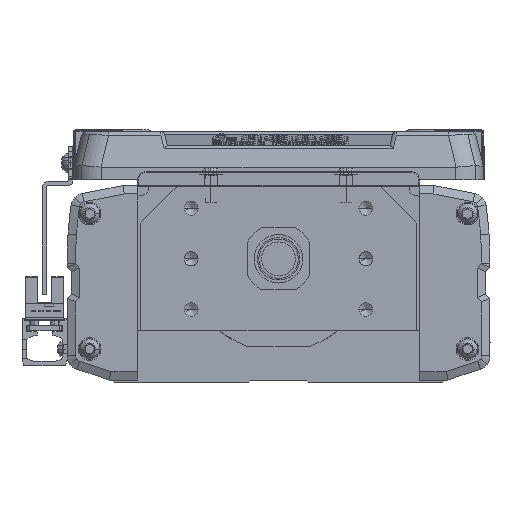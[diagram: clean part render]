
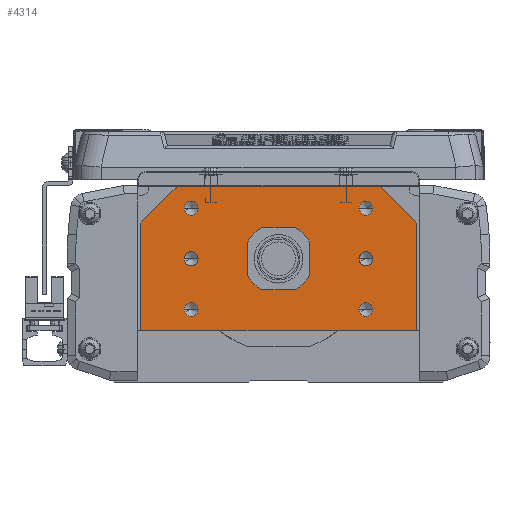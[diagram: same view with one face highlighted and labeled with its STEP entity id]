
A CAD part, left-side view. The second image highlights one B-rep face of the part: STEP entity #4314.
In plain terms, the highlighted planar face has unit normal (-1, 0, 0).
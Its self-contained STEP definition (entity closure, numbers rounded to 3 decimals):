
#4314=ADVANCED_FACE('',(#10788,#10789,#10790,#10791,#10792,#10793,#10794,#10795),#10796,.F.);
#10788=FACE_OUTER_BOUND('',#20342,.T.);
#10789=FACE_BOUND('',#20343,.T.);
#10790=FACE_BOUND('',#20344,.T.);
#10791=FACE_BOUND('',#20345,.T.);
#10792=FACE_BOUND('',#20346,.T.);
#10793=FACE_BOUND('',#20347,.T.);
#10794=FACE_BOUND('',#20348,.T.);
#10795=FACE_BOUND('',#20349,.T.);
#10796=PLANE('',#20350);
#20342=EDGE_LOOP('',(#33206,#33207,#33208,#33209,#33210,#33211,#33212,#33213));
#20343=EDGE_LOOP('',(#33214,#33215));
#20344=EDGE_LOOP('',(#33216,#33217));
#20345=EDGE_LOOP('',(#33218,#33219));
#20346=EDGE_LOOP('',(#33220,#33221));
#20347=EDGE_LOOP('',(#33222,#33223));
#20348=EDGE_LOOP('',(#33224,#33225));
#20349=EDGE_LOOP('',(#33226,#33227));
#20350=AXIS2_PLACEMENT_3D('',#33228,#33229,#33230);
#33206=ORIENTED_EDGE('',*,*,#56934,.F.);
#33207=ORIENTED_EDGE('',*,*,#57249,.F.);
#33208=ORIENTED_EDGE('',*,*,#57250,.F.);
#33209=ORIENTED_EDGE('',*,*,#54805,.F.);
#33210=ORIENTED_EDGE('',*,*,#57251,.F.);
#33211=ORIENTED_EDGE('',*,*,#57252,.F.);
#33212=ORIENTED_EDGE('',*,*,#54984,.F.);
#33213=ORIENTED_EDGE('',*,*,#56521,.F.);
#33214=ORIENTED_EDGE('',*,*,#57253,.T.);
#33215=ORIENTED_EDGE('',*,*,#57254,.T.);
#33216=ORIENTED_EDGE('',*,*,#57255,.T.);
#33217=ORIENTED_EDGE('',*,*,#55213,.T.);
#33218=ORIENTED_EDGE('',*,*,#57122,.T.);
#33219=ORIENTED_EDGE('',*,*,#57256,.T.);
#33220=ORIENTED_EDGE('',*,*,#57257,.T.);
#33221=ORIENTED_EDGE('',*,*,#57258,.T.);
#33222=ORIENTED_EDGE('',*,*,#57259,.T.);
#33223=ORIENTED_EDGE('',*,*,#57260,.T.);
#33224=ORIENTED_EDGE('',*,*,#57261,.T.);
#33225=ORIENTED_EDGE('',*,*,#57262,.T.);
#33226=ORIENTED_EDGE('',*,*,#57263,.F.);
#33227=ORIENTED_EDGE('',*,*,#57264,.F.);
#33228=CARTESIAN_POINT('',(0.,0.275,-2.548));
#33229=DIRECTION('',(1.0,0.,0.));
#33230=DIRECTION('',(0.,1.0,0.));
#54805=EDGE_CURVE('',#65102,#65104,#65105,.T.);
#54984=EDGE_CURVE('',#65422,#65423,#65424,.T.);
#55213=EDGE_CURVE('',#65843,#65841,#65844,.T.);
#56521=EDGE_CURVE('',#68160,#65422,#68163,.T.);
#56934=EDGE_CURVE('',#68855,#68160,#68856,.T.);
#57122=EDGE_CURVE('',#69161,#69164,#69166,.T.);
#57249=EDGE_CURVE('',#69378,#68855,#69379,.T.);
#57250=EDGE_CURVE('',#65104,#69378,#69380,.T.);
#57251=EDGE_CURVE('',#69381,#65102,#69382,.T.);
#57252=EDGE_CURVE('',#65423,#69381,#69383,.T.);
#57253=EDGE_CURVE('',#69384,#69385,#69386,.T.);
#57254=EDGE_CURVE('',#69385,#69384,#69387,.T.);
#57255=EDGE_CURVE('',#65841,#65843,#69388,.T.);
#57256=EDGE_CURVE('',#69164,#69161,#69389,.T.);
#57257=EDGE_CURVE('',#69390,#69391,#69392,.T.);
#57258=EDGE_CURVE('',#69391,#69390,#69393,.T.);
#57259=EDGE_CURVE('',#69394,#69395,#69396,.T.);
#57260=EDGE_CURVE('',#69395,#69394,#69397,.T.);
#57261=EDGE_CURVE('',#69398,#69399,#69400,.T.);
#57262=EDGE_CURVE('',#69399,#69398,#69401,.T.);
#57263=EDGE_CURVE('',#69402,#69403,#69404,.F.);
#57264=EDGE_CURVE('',#69403,#69402,#69405,.F.);
#65102=VERTEX_POINT('',#80038);
#65104=VERTEX_POINT('',#80041);
#65105=LINE('',#80042,#80043);
#65422=VERTEX_POINT('',#80504);
#65423=VERTEX_POINT('',#80505);
#65424=LINE('',#80506,#80507);
#65841=VERTEX_POINT('',#81073);
#65843=VERTEX_POINT('',#81076);
#65844=CIRCLE('',#81077,2.5);
#68160=VERTEX_POINT('',#84438);
#68163=LINE('',#84442,#84443);
#68855=VERTEX_POINT('',#85413);
#68856=LINE('',#85414,#85415);
#69161=VERTEX_POINT('',#85876);
#69164=VERTEX_POINT('',#85880);
#69166=CIRCLE('',#85883,2.5);
#69378=VERTEX_POINT('',#86180);
#69379=LINE('',#86181,#86182);
#69380=LINE('',#86183,#86184);
#69381=VERTEX_POINT('',#86185);
#69382=LINE('',#86186,#86187);
#69383=LINE('',#86188,#86189);
#69384=VERTEX_POINT('',#86190);
#69385=VERTEX_POINT('',#86191);
#69386=CIRCLE('',#86192,2.5);
#69387=CIRCLE('',#86193,2.5);
#69388=CIRCLE('',#86194,2.5);
#69389=CIRCLE('',#86195,2.5);
#69390=VERTEX_POINT('',#86196);
#69391=VERTEX_POINT('',#86197);
#69392=CIRCLE('',#86198,2.5);
#69393=CIRCLE('',#86199,2.5);
#69394=VERTEX_POINT('',#86200);
#69395=VERTEX_POINT('',#86201);
#69396=CIRCLE('',#86202,2.5);
#69397=CIRCLE('',#86203,2.5);
#69398=VERTEX_POINT('',#86204);
#69399=VERTEX_POINT('',#86205);
#69400=CIRCLE('',#86206,2.5);
#69401=CIRCLE('',#86207,2.5);
#69402=VERTEX_POINT('',#86208);
#69403=VERTEX_POINT('',#86209);
#69404=CIRCLE('',#86210,7.5);
#69405=CIRCLE('',#86211,7.5);
#80038=CARTESIAN_POINT('',(0.,-48.5,-25.5));
#80041=CARTESIAN_POINT('',(0.,48.5,-25.5));
#80042=CARTESIAN_POINT('',(0.,0.,-25.5));
#80043=VECTOR('',#101457,10.0);
#80504=CARTESIAN_POINT('',(0.,-36.,25.7));
#80505=CARTESIAN_POINT('',(0.,-49.,12.7));
#80506=CARTESIAN_POINT('',(0.,-37.243,24.457));
#80507=VECTOR('',#101701,10.0);
#81073=CARTESIAN_POINT('',(0.,-33.5,-18.));
#81076=CARTESIAN_POINT('',(0.,-28.5,-18.));
#81077=AXIS2_PLACEMENT_3D('',#102047,#102048,#102049);
#84438=CARTESIAN_POINT('',(0.,36.,25.7));
#84442=CARTESIAN_POINT('',(0.,34.5,25.7));
#84443=VECTOR('',#103939,10.0);
#85413=CARTESIAN_POINT('',(0.,49.,12.7));
#85414=CARTESIAN_POINT('',(0.,37.381,24.319));
#85415=VECTOR('',#104488,10.);
#85876=CARTESIAN_POINT('',(0.,33.5,18.));
#85880=CARTESIAN_POINT('',(0.,28.5,18.));
#85883=AXIS2_PLACEMENT_3D('',#104732,#104733,#104734);
#86180=CARTESIAN_POINT('',(0.,49.,-25.));
#86181=CARTESIAN_POINT('',(0.,49.,-25.));
#86182=VECTOR('',#104891,10.0);
#86183=CARTESIAN_POINT('',(0.,48.5,-25.5));
#86184=VECTOR('',#104892,10.0);
#86185=CARTESIAN_POINT('',(0.,-49.,-25.));
#86186=CARTESIAN_POINT('',(0.,-49.,-25.));
#86187=VECTOR('',#104893,10.0);
#86188=CARTESIAN_POINT('',(0.,-49.,-14.));
#86189=VECTOR('',#104894,10.0);
#86190=CARTESIAN_POINT('',(0.,33.5,-18.));
#86191=CARTESIAN_POINT('',(0.,28.5,-18.));
#86192=AXIS2_PLACEMENT_3D('',#104895,#104896,#104897);
#86193=AXIS2_PLACEMENT_3D('',#104898,#104899,#104900);
#86194=AXIS2_PLACEMENT_3D('',#104901,#104902,#104903);
#86195=AXIS2_PLACEMENT_3D('',#104904,#104905,#104906);
#86196=CARTESIAN_POINT('',(0.,-33.5,18.));
#86197=CARTESIAN_POINT('',(0.,-28.5,18.));
#86198=AXIS2_PLACEMENT_3D('',#104907,#104908,#104909);
#86199=AXIS2_PLACEMENT_3D('',#104910,#104911,#104912);
#86200=CARTESIAN_POINT('',(0.,33.5,0.));
#86201=CARTESIAN_POINT('',(0.,28.5,0.));
#86202=AXIS2_PLACEMENT_3D('',#104913,#104914,#104915);
#86203=AXIS2_PLACEMENT_3D('',#104916,#104917,#104918);
#86204=CARTESIAN_POINT('',(0.,-33.5,0.));
#86205=CARTESIAN_POINT('',(0.,-28.5,0.));
#86206=AXIS2_PLACEMENT_3D('',#104919,#104920,#104921);
#86207=AXIS2_PLACEMENT_3D('',#104922,#104923,#104924);
#86208=CARTESIAN_POINT('',(0.,7.5,0.));
#86209=CARTESIAN_POINT('',(0.,-7.5,0.));
#86210=AXIS2_PLACEMENT_3D('',#104925,#104926,#104927);
#86211=AXIS2_PLACEMENT_3D('',#104928,#104929,#104930);
#101457=DIRECTION('',(0.,1.0,0.));
#101701=DIRECTION('',(0.,-0.707,-0.707));
#102047=CARTESIAN_POINT('',(0.,-31.,-18.));
#102048=DIRECTION('',(1.0,0.,0.));
#102049=DIRECTION('',(0.,-1.0,0.));
#103939=DIRECTION('',(0.,-1.0,0.));
#104488=DIRECTION('',(0.,-0.707,0.707));
#104732=CARTESIAN_POINT('',(0.,31.,18.));
#104733=DIRECTION('',(1.0,0.,0.));
#104734=DIRECTION('',(0.,1.0,0.));
#104891=DIRECTION('',(0.,0.,1.0));
#104892=DIRECTION('',(0.,0.707,0.707));
#104893=DIRECTION('',(0.,0.707,-0.707));
#104894=DIRECTION('',(0.,0.,-1.0));
#104895=CARTESIAN_POINT('',(0.,31.,-18.));
#104896=DIRECTION('',(1.0,0.,0.));
#104897=DIRECTION('',(0.,1.0,0.));
#104898=CARTESIAN_POINT('',(0.,31.,-18.));
#104899=DIRECTION('',(1.0,0.,0.));
#104900=DIRECTION('',(0.,1.0,0.));
#104901=CARTESIAN_POINT('',(0.,-31.,-18.));
#104902=DIRECTION('',(1.0,0.,0.));
#104903=DIRECTION('',(0.,-1.0,0.));
#104904=CARTESIAN_POINT('',(0.,31.,18.));
#104905=DIRECTION('',(1.0,0.,0.));
#104906=DIRECTION('',(0.,1.0,0.));
#104907=CARTESIAN_POINT('',(0.,-31.,18.));
#104908=DIRECTION('',(1.0,0.,0.));
#104909=DIRECTION('',(0.,-1.0,0.));
#104910=CARTESIAN_POINT('',(0.,-31.,18.));
#104911=DIRECTION('',(1.0,0.,0.));
#104912=DIRECTION('',(0.,-1.0,0.));
#104913=CARTESIAN_POINT('',(0.,31.,0.));
#104914=DIRECTION('',(1.0,0.,0.));
#104915=DIRECTION('',(0.,1.0,0.));
#104916=CARTESIAN_POINT('',(0.,31.,0.));
#104917=DIRECTION('',(1.0,0.,0.));
#104918=DIRECTION('',(0.,1.0,0.));
#104919=CARTESIAN_POINT('',(0.,-31.,0.));
#104920=DIRECTION('',(1.0,0.,0.));
#104921=DIRECTION('',(0.,-1.0,0.));
#104922=CARTESIAN_POINT('',(0.,-31.,0.));
#104923=DIRECTION('',(1.0,0.,0.));
#104924=DIRECTION('',(0.,-1.0,0.));
#104925=CARTESIAN_POINT('',(0.,0.,0.));
#104926=DIRECTION('',(1.0,0.,0.));
#104927=DIRECTION('',(0.,-1.0,0.));
#104928=CARTESIAN_POINT('',(0.,0.,0.));
#104929=DIRECTION('',(1.0,0.,0.));
#104930=DIRECTION('',(0.,-1.0,0.));
